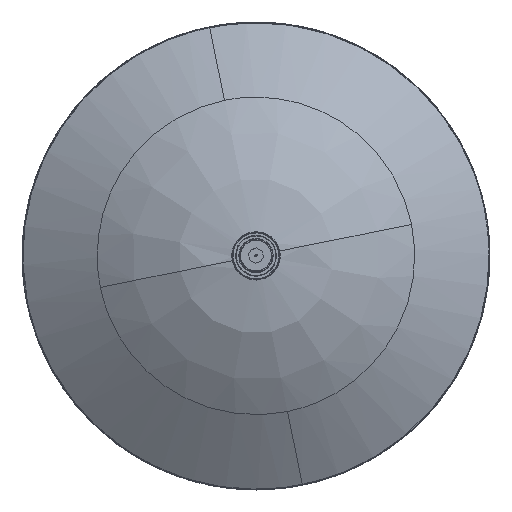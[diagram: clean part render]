
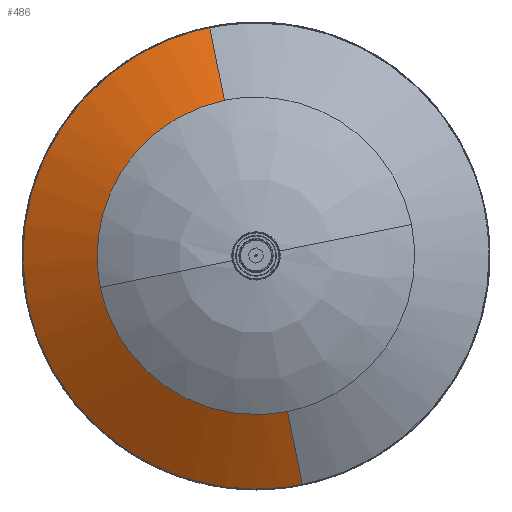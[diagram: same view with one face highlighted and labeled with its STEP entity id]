
A CAD part, top view. The second image highlights one B-rep face of the part: STEP entity #486.
In plain terms, the highlighted free-form (B-spline) face has degree [2, 1] with [5, 2] control points.
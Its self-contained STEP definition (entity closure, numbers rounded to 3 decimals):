
#486=ADVANCED_FACE('',(#822),#4784,.T.);
#822=FACE_OUTER_BOUND('',#1157,.T.);
#1157=EDGE_LOOP('',(#2457,#2458,#2459,#2460,#2461,#2462));
#2457=ORIENTED_EDGE('',*,*,#3340,.T.);
#2458=ORIENTED_EDGE('',*,*,#3314,.F.);
#2459=ORIENTED_EDGE('',*,*,#3319,.T.);
#2460=ORIENTED_EDGE('',*,*,#3321,.F.);
#2461=ORIENTED_EDGE('',*,*,#3318,.T.);
#2462=ORIENTED_EDGE('',*,*,#3341,.F.);
#3314=EDGE_CURVE('',#4580,#4596,#4100,.T.);
#3318=EDGE_CURVE('',#4582,#4570,#4104,.T.);
#3319=EDGE_CURVE('',#4580,#4583,#4105,.T.);
#3321=EDGE_CURVE('',#4582,#4583,#3614,.T.);
#3340=EDGE_CURVE('',#4595,#4596,#3627,.T.);
#3341=EDGE_CURVE('',#4595,#4570,#4113,.T.);
#3614=B_SPLINE_CURVE_WITH_KNOTS('',1,(#16696,#16697),.UNSPECIFIED.,.F.,
 .F.,(2,2),(231.07,339.964),.UNSPECIFIED.);
#3627=B_SPLINE_CURVE_WITH_KNOTS('',1,(#16792,#16793),.UNSPECIFIED.,.F.,
 .F.,(2,2),(231.07,339.964),.UNSPECIFIED.);
#4100=(
BOUNDED_CURVE()
B_SPLINE_CURVE(2,(#16673,#16674,#16675),.UNSPECIFIED.,.F.,.F.)
B_SPLINE_CURVE_WITH_KNOTS((3,3),(0.,454.834),.UNSPECIFIED.)
CURVE()
GEOMETRIC_REPRESENTATION_ITEM()
RATIONAL_B_SPLINE_CURVE((1.,0.707,1.))
REPRESENTATION_ITEM('')
);
#4104=(
BOUNDED_CURVE()
B_SPLINE_CURVE(2,(#16687,#16688,#16689),.UNSPECIFIED.,.F.,.F.)
B_SPLINE_CURVE_WITH_KNOTS((3,3),(309.147,618.293),
 .UNSPECIFIED.)
CURVE()
GEOMETRIC_REPRESENTATION_ITEM()
RATIONAL_B_SPLINE_CURVE((1.,0.707,1.))
REPRESENTATION_ITEM('')
);
#4105=(
BOUNDED_CURVE()
B_SPLINE_CURVE(2,(#16690,#16691,#16692),.UNSPECIFIED.,.F.,.F.)
B_SPLINE_CURVE_WITH_KNOTS((3,3),(0.,454.834),.UNSPECIFIED.)
CURVE()
GEOMETRIC_REPRESENTATION_ITEM()
RATIONAL_B_SPLINE_CURVE((1.,0.707,1.))
REPRESENTATION_ITEM('')
);
#4113=(
BOUNDED_CURVE()
B_SPLINE_CURVE(2,(#16794,#16795,#16796),.UNSPECIFIED.,.F.,.F.)
B_SPLINE_CURVE_WITH_KNOTS((3,3),(309.147,618.293),
 .UNSPECIFIED.)
CURVE()
GEOMETRIC_REPRESENTATION_ITEM()
RATIONAL_B_SPLINE_CURVE((1.,0.707,1.))
REPRESENTATION_ITEM('')
);
#4570=VERTEX_POINT('',#16507);
#4580=VERTEX_POINT('',#16517);
#4582=VERTEX_POINT('',#16519);
#4583=VERTEX_POINT('',#16520);
#4595=VERTEX_POINT('',#16532);
#4596=VERTEX_POINT('',#16533);
#4784=(
BOUNDED_SURFACE()
B_SPLINE_SURFACE(2,1,((#16260,#16261),(#16262,#16263),(#16264,#16265),(#16266,
#16267),(#16268,#16269)),.UNSPECIFIED.,.F.,.F.,.F.)
B_SPLINE_SURFACE_WITH_KNOTS((3,2,3),(2,2),(0.,500.624,1001.248),
(0.,374.189),.UNSPECIFIED.)
GEOMETRIC_REPRESENTATION_ITEM()
RATIONAL_B_SPLINE_SURFACE(((1.,1.),(0.707,0.707),
(1.,1.),(0.707,0.707),(1.,1.)))
REPRESENTATION_ITEM('')
SURFACE()
);
#16260=CARTESIAN_POINT('',(0.,0.,59.961));
#16261=CARTESIAN_POINT('',(0.,-318.707,-136.109));
#16262=CARTESIAN_POINT('',(0.,0.,59.961));
#16263=CARTESIAN_POINT('',(-318.707,-318.707,-136.109));
#16264=CARTESIAN_POINT('',(0.,0.,59.961));
#16265=CARTESIAN_POINT('',(-318.707,0.,-136.109));
#16266=CARTESIAN_POINT('',(0.,0.,59.961));
#16267=CARTESIAN_POINT('',(-318.707,318.707,-136.109));
#16268=CARTESIAN_POINT('',(0.,0.,59.961));
#16269=CARTESIAN_POINT('',(0.,318.707,-136.109));
#16507=CARTESIAN_POINT('',(-196.809,0.,-61.117));
#16517=CARTESIAN_POINT('',(-289.556,0.,-118.175));
#16519=CARTESIAN_POINT('',(0.,-196.809,-61.117));
#16520=CARTESIAN_POINT('',(0.,-289.556,-118.175));
#16532=CARTESIAN_POINT('',(0.,196.809,-61.117));
#16533=CARTESIAN_POINT('',(0.,289.556,-118.175));
#16673=CARTESIAN_POINT('',(-289.556,0.,-118.175));
#16674=CARTESIAN_POINT('',(-289.556,289.556,-118.175));
#16675=CARTESIAN_POINT('',(0.,289.556,-118.175));
#16687=CARTESIAN_POINT('',(0.,-196.809,-61.117));
#16688=CARTESIAN_POINT('',(-196.809,-196.809,-61.117));
#16689=CARTESIAN_POINT('',(-196.809,0.,-61.117));
#16690=CARTESIAN_POINT('',(-289.556,0.,-118.175));
#16691=CARTESIAN_POINT('',(-289.556,-289.556,-118.175));
#16692=CARTESIAN_POINT('',(0.,-289.556,-118.175));
#16696=CARTESIAN_POINT('',(0.,-196.809,-61.117));
#16697=CARTESIAN_POINT('',(0.,-289.556,-118.175));
#16792=CARTESIAN_POINT('',(0.,196.809,-61.117));
#16793=CARTESIAN_POINT('',(0.,289.556,-118.175));
#16794=CARTESIAN_POINT('',(0.,196.809,-61.117));
#16795=CARTESIAN_POINT('',(-196.809,196.809,-61.117));
#16796=CARTESIAN_POINT('',(-196.809,0.,-61.117));
